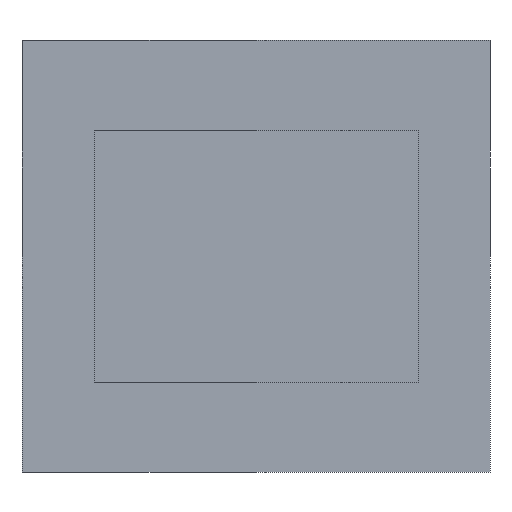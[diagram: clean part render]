
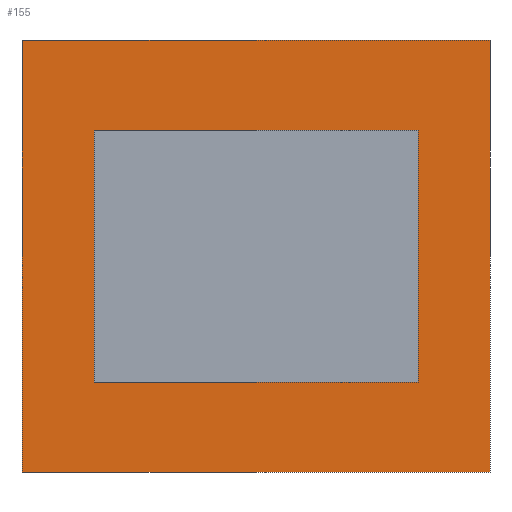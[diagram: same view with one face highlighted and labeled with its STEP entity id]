
A CAD part, front view. The second image highlights one B-rep face of the part: STEP entity #155.
In plain terms, the highlighted planar face has unit normal (0, -1, 0).
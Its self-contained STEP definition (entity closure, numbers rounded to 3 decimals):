
#39 = EDGE_CURVE('',#40,#42,#44,.T.);
#40 = VERTEX_POINT('',#41);
#41 = CARTESIAN_POINT('',(19.5,13.6,33.));
#42 = VERTEX_POINT('',#43);
#43 = CARTESIAN_POINT('',(19.5,13.6,45.));
#44 = SURFACE_CURVE('',#45,(#49,#61),.PCURVE_S1.);
#45 = LINE('',#46,#47);
#46 = CARTESIAN_POINT('',(19.5,13.6,33.));
#47 = VECTOR('',#48,1.);
#48 = DIRECTION('',(0.,0.,1.));
#49 = PCURVE('',#50,#55);
#50 = PLANE('',#51);
#51 = AXIS2_PLACEMENT_3D('',#52,#53,#54);
#52 = CARTESIAN_POINT('',(19.5,13.6,33.));
#53 = DIRECTION('',(1.,0.,0.));
#54 = DIRECTION('',(0.,0.,1.));
#55 = DEFINITIONAL_REPRESENTATION('',(#56),#60);
#56 = LINE('',#57,#58);
#57 = CARTESIAN_POINT('',(0.,0.));
#58 = VECTOR('',#59,1.);
#59 = DIRECTION('',(1.,0.));
#60 = ( GEOMETRIC_REPRESENTATION_CONTEXT(2) 
PARAMETRIC_REPRESENTATION_CONTEXT() REPRESENTATION_CONTEXT('2D SPACE',''
  ) );
#61 = PCURVE('',#62,#67);
#62 = PLANE('',#63);
#63 = AXIS2_PLACEMENT_3D('',#64,#65,#66);
#64 = CARTESIAN_POINT('',(19.5,13.6,33.));
#65 = DIRECTION('',(0.,1.,0.));
#66 = DIRECTION('',(0.,0.,1.));
#67 = DEFINITIONAL_REPRESENTATION('',(#68),#72);
#68 = LINE('',#69,#70);
#69 = CARTESIAN_POINT('',(0.,0.));
#70 = VECTOR('',#71,1.);
#71 = DIRECTION('',(1.,0.));
#72 = ( GEOMETRIC_REPRESENTATION_CONTEXT(2) 
PARAMETRIC_REPRESENTATION_CONTEXT() REPRESENTATION_CONTEXT('2D SPACE',''
  ) );
#90 = PLANE('',#91);
#91 = AXIS2_PLACEMENT_3D('',#92,#93,#94);
#92 = CARTESIAN_POINT('',(19.5,13.6,33.));
#93 = DIRECTION('',(0.,0.,1.));
#94 = DIRECTION('',(1.,0.,0.));
#144 = PLANE('',#145);
#145 = AXIS2_PLACEMENT_3D('',#146,#147,#148);
#146 = CARTESIAN_POINT('',(19.5,13.6,45.));
#147 = DIRECTION('',(0.,0.,1.));
#148 = DIRECTION('',(1.,0.,0.));
#155 = ADVANCED_FACE('',(#156,#231),#62,.F.);
#156 = FACE_BOUND('',#157,.F.);
#157 = EDGE_LOOP('',(#158,#181,#182,#205));
#158 = ORIENTED_EDGE('',*,*,#159,.F.);
#159 = EDGE_CURVE('',#40,#160,#162,.T.);
#160 = VERTEX_POINT('',#161);
#161 = CARTESIAN_POINT('',(32.5,13.6,33.));
#162 = SURFACE_CURVE('',#163,(#167,#174),.PCURVE_S1.);
#163 = LINE('',#164,#165);
#164 = CARTESIAN_POINT('',(19.5,13.6,33.));
#165 = VECTOR('',#166,1.);
#166 = DIRECTION('',(1.,0.,0.));
#167 = PCURVE('',#62,#168);
#168 = DEFINITIONAL_REPRESENTATION('',(#169),#173);
#169 = LINE('',#170,#171);
#170 = CARTESIAN_POINT('',(0.,0.));
#171 = VECTOR('',#172,1.);
#172 = DIRECTION('',(0.,1.));
#173 = ( GEOMETRIC_REPRESENTATION_CONTEXT(2) 
PARAMETRIC_REPRESENTATION_CONTEXT() REPRESENTATION_CONTEXT('2D SPACE',''
  ) );
#174 = PCURVE('',#90,#175);
#175 = DEFINITIONAL_REPRESENTATION('',(#176),#180);
#176 = LINE('',#177,#178);
#177 = CARTESIAN_POINT('',(0.,0.));
#178 = VECTOR('',#179,1.);
#179 = DIRECTION('',(1.,0.));
#180 = ( GEOMETRIC_REPRESENTATION_CONTEXT(2) 
PARAMETRIC_REPRESENTATION_CONTEXT() REPRESENTATION_CONTEXT('2D SPACE',''
  ) );
#181 = ORIENTED_EDGE('',*,*,#39,.T.);
#182 = ORIENTED_EDGE('',*,*,#183,.T.);
#183 = EDGE_CURVE('',#42,#184,#186,.T.);
#184 = VERTEX_POINT('',#185);
#185 = CARTESIAN_POINT('',(32.5,13.6,45.));
#186 = SURFACE_CURVE('',#187,(#191,#198),.PCURVE_S1.);
#187 = LINE('',#188,#189);
#188 = CARTESIAN_POINT('',(19.5,13.6,45.));
#189 = VECTOR('',#190,1.);
#190 = DIRECTION('',(1.,0.,0.));
#191 = PCURVE('',#62,#192);
#192 = DEFINITIONAL_REPRESENTATION('',(#193),#197);
#193 = LINE('',#194,#195);
#194 = CARTESIAN_POINT('',(12.,0.));
#195 = VECTOR('',#196,1.);
#196 = DIRECTION('',(0.,1.));
#197 = ( GEOMETRIC_REPRESENTATION_CONTEXT(2) 
PARAMETRIC_REPRESENTATION_CONTEXT() REPRESENTATION_CONTEXT('2D SPACE',''
  ) );
#198 = PCURVE('',#144,#199);
#199 = DEFINITIONAL_REPRESENTATION('',(#200),#204);
#200 = LINE('',#201,#202);
#201 = CARTESIAN_POINT('',(0.,0.));
#202 = VECTOR('',#203,1.);
#203 = DIRECTION('',(1.,0.));
#204 = ( GEOMETRIC_REPRESENTATION_CONTEXT(2) 
PARAMETRIC_REPRESENTATION_CONTEXT() REPRESENTATION_CONTEXT('2D SPACE',''
  ) );
#205 = ORIENTED_EDGE('',*,*,#206,.F.);
#206 = EDGE_CURVE('',#160,#184,#207,.T.);
#207 = SURFACE_CURVE('',#208,(#212,#219),.PCURVE_S1.);
#208 = LINE('',#209,#210);
#209 = CARTESIAN_POINT('',(32.5,13.6,33.));
#210 = VECTOR('',#211,1.);
#211 = DIRECTION('',(0.,0.,1.));
#212 = PCURVE('',#62,#213);
#213 = DEFINITIONAL_REPRESENTATION('',(#214),#218);
#214 = LINE('',#215,#216);
#215 = CARTESIAN_POINT('',(0.,13.));
#216 = VECTOR('',#217,1.);
#217 = DIRECTION('',(1.,0.));
#218 = ( GEOMETRIC_REPRESENTATION_CONTEXT(2) 
PARAMETRIC_REPRESENTATION_CONTEXT() REPRESENTATION_CONTEXT('2D SPACE',''
  ) );
#219 = PCURVE('',#220,#225);
#220 = PLANE('',#221);
#221 = AXIS2_PLACEMENT_3D('',#222,#223,#224);
#222 = CARTESIAN_POINT('',(32.5,13.6,33.));
#223 = DIRECTION('',(1.,0.,0.));
#224 = DIRECTION('',(0.,0.,1.));
#225 = DEFINITIONAL_REPRESENTATION('',(#226),#230);
#226 = LINE('',#227,#228);
#227 = CARTESIAN_POINT('',(0.,0.));
#228 = VECTOR('',#229,1.);
#229 = DIRECTION('',(1.,0.));
#230 = ( GEOMETRIC_REPRESENTATION_CONTEXT(2) 
PARAMETRIC_REPRESENTATION_CONTEXT() REPRESENTATION_CONTEXT('2D SPACE',''
  ) );
#231 = FACE_BOUND('',#232,.F.);
#232 = EDGE_LOOP('',(#233,#263,#291,#319));
#233 = ORIENTED_EDGE('',*,*,#234,.F.);
#234 = EDGE_CURVE('',#235,#237,#239,.T.);
#235 = VERTEX_POINT('',#236);
#236 = CARTESIAN_POINT('',(21.5,13.6,42.5));
#237 = VERTEX_POINT('',#238);
#238 = CARTESIAN_POINT('',(30.5,13.6,42.5));
#239 = SURFACE_CURVE('',#240,(#244,#251),.PCURVE_S1.);
#240 = LINE('',#241,#242);
#241 = CARTESIAN_POINT('',(21.5,13.6,42.5));
#242 = VECTOR('',#243,1.);
#243 = DIRECTION('',(1.,0.,0.));
#244 = PCURVE('',#62,#245);
#245 = DEFINITIONAL_REPRESENTATION('',(#246),#250);
#246 = LINE('',#247,#248);
#247 = CARTESIAN_POINT('',(9.5,2.));
#248 = VECTOR('',#249,1.);
#249 = DIRECTION('',(0.,1.));
#250 = ( GEOMETRIC_REPRESENTATION_CONTEXT(2) 
PARAMETRIC_REPRESENTATION_CONTEXT() REPRESENTATION_CONTEXT('2D SPACE',''
  ) );
#251 = PCURVE('',#252,#257);
#252 = PLANE('',#253);
#253 = AXIS2_PLACEMENT_3D('',#254,#255,#256);
#254 = CARTESIAN_POINT('',(21.5,8.6,42.5));
#255 = DIRECTION('',(0.,0.,1.));
#256 = DIRECTION('',(1.,0.,0.));
#257 = DEFINITIONAL_REPRESENTATION('',(#258),#262);
#258 = LINE('',#259,#260);
#259 = CARTESIAN_POINT('',(0.,5.));
#260 = VECTOR('',#261,1.);
#261 = DIRECTION('',(1.,0.));
#262 = ( GEOMETRIC_REPRESENTATION_CONTEXT(2) 
PARAMETRIC_REPRESENTATION_CONTEXT() REPRESENTATION_CONTEXT('2D SPACE',''
  ) );
#263 = ORIENTED_EDGE('',*,*,#264,.F.);
#264 = EDGE_CURVE('',#265,#235,#267,.T.);
#265 = VERTEX_POINT('',#266);
#266 = CARTESIAN_POINT('',(21.5,13.6,35.5));
#267 = SURFACE_CURVE('',#268,(#272,#279),.PCURVE_S1.);
#268 = LINE('',#269,#270);
#269 = CARTESIAN_POINT('',(21.5,13.6,35.5));
#270 = VECTOR('',#271,1.);
#271 = DIRECTION('',(0.,0.,1.));
#272 = PCURVE('',#62,#273);
#273 = DEFINITIONAL_REPRESENTATION('',(#274),#278);
#274 = LINE('',#275,#276);
#275 = CARTESIAN_POINT('',(2.5,2.));
#276 = VECTOR('',#277,1.);
#277 = DIRECTION('',(1.,0.));
#278 = ( GEOMETRIC_REPRESENTATION_CONTEXT(2) 
PARAMETRIC_REPRESENTATION_CONTEXT() REPRESENTATION_CONTEXT('2D SPACE',''
  ) );
#279 = PCURVE('',#280,#285);
#280 = PLANE('',#281);
#281 = AXIS2_PLACEMENT_3D('',#282,#283,#284);
#282 = CARTESIAN_POINT('',(21.5,8.6,35.5));
#283 = DIRECTION('',(1.,0.,0.));
#284 = DIRECTION('',(0.,0.,1.));
#285 = DEFINITIONAL_REPRESENTATION('',(#286),#290);
#286 = LINE('',#287,#288);
#287 = CARTESIAN_POINT('',(0.,-5.));
#288 = VECTOR('',#289,1.);
#289 = DIRECTION('',(1.,0.));
#290 = ( GEOMETRIC_REPRESENTATION_CONTEXT(2) 
PARAMETRIC_REPRESENTATION_CONTEXT() REPRESENTATION_CONTEXT('2D SPACE',''
  ) );
#291 = ORIENTED_EDGE('',*,*,#292,.T.);
#292 = EDGE_CURVE('',#265,#293,#295,.T.);
#293 = VERTEX_POINT('',#294);
#294 = CARTESIAN_POINT('',(30.5,13.6,35.5));
#295 = SURFACE_CURVE('',#296,(#300,#307),.PCURVE_S1.);
#296 = LINE('',#297,#298);
#297 = CARTESIAN_POINT('',(21.5,13.6,35.5));
#298 = VECTOR('',#299,1.);
#299 = DIRECTION('',(1.,0.,0.));
#300 = PCURVE('',#62,#301);
#301 = DEFINITIONAL_REPRESENTATION('',(#302),#306);
#302 = LINE('',#303,#304);
#303 = CARTESIAN_POINT('',(2.5,2.));
#304 = VECTOR('',#305,1.);
#305 = DIRECTION('',(0.,1.));
#306 = ( GEOMETRIC_REPRESENTATION_CONTEXT(2) 
PARAMETRIC_REPRESENTATION_CONTEXT() REPRESENTATION_CONTEXT('2D SPACE',''
  ) );
#307 = PCURVE('',#308,#313);
#308 = PLANE('',#309);
#309 = AXIS2_PLACEMENT_3D('',#310,#311,#312);
#310 = CARTESIAN_POINT('',(21.5,8.6,35.5));
#311 = DIRECTION('',(0.,0.,1.));
#312 = DIRECTION('',(1.,0.,0.));
#313 = DEFINITIONAL_REPRESENTATION('',(#314),#318);
#314 = LINE('',#315,#316);
#315 = CARTESIAN_POINT('',(0.,5.));
#316 = VECTOR('',#317,1.);
#317 = DIRECTION('',(1.,0.));
#318 = ( GEOMETRIC_REPRESENTATION_CONTEXT(2) 
PARAMETRIC_REPRESENTATION_CONTEXT() REPRESENTATION_CONTEXT('2D SPACE',''
  ) );
#319 = ORIENTED_EDGE('',*,*,#320,.T.);
#320 = EDGE_CURVE('',#293,#237,#321,.T.);
#321 = SURFACE_CURVE('',#322,(#326,#333),.PCURVE_S1.);
#322 = LINE('',#323,#324);
#323 = CARTESIAN_POINT('',(30.5,13.6,35.5));
#324 = VECTOR('',#325,1.);
#325 = DIRECTION('',(0.,0.,1.));
#326 = PCURVE('',#62,#327);
#327 = DEFINITIONAL_REPRESENTATION('',(#328),#332);
#328 = LINE('',#329,#330);
#329 = CARTESIAN_POINT('',(2.5,11.));
#330 = VECTOR('',#331,1.);
#331 = DIRECTION('',(1.,0.));
#332 = ( GEOMETRIC_REPRESENTATION_CONTEXT(2) 
PARAMETRIC_REPRESENTATION_CONTEXT() REPRESENTATION_CONTEXT('2D SPACE',''
  ) );
#333 = PCURVE('',#334,#339);
#334 = PLANE('',#335);
#335 = AXIS2_PLACEMENT_3D('',#336,#337,#338);
#336 = CARTESIAN_POINT('',(30.5,8.6,35.5));
#337 = DIRECTION('',(1.,0.,0.));
#338 = DIRECTION('',(0.,0.,1.));
#339 = DEFINITIONAL_REPRESENTATION('',(#340),#344);
#340 = LINE('',#341,#342);
#341 = CARTESIAN_POINT('',(0.,-5.));
#342 = VECTOR('',#343,1.);
#343 = DIRECTION('',(1.,0.));
#344 = ( GEOMETRIC_REPRESENTATION_CONTEXT(2) 
PARAMETRIC_REPRESENTATION_CONTEXT() REPRESENTATION_CONTEXT('2D SPACE',''
  ) );
